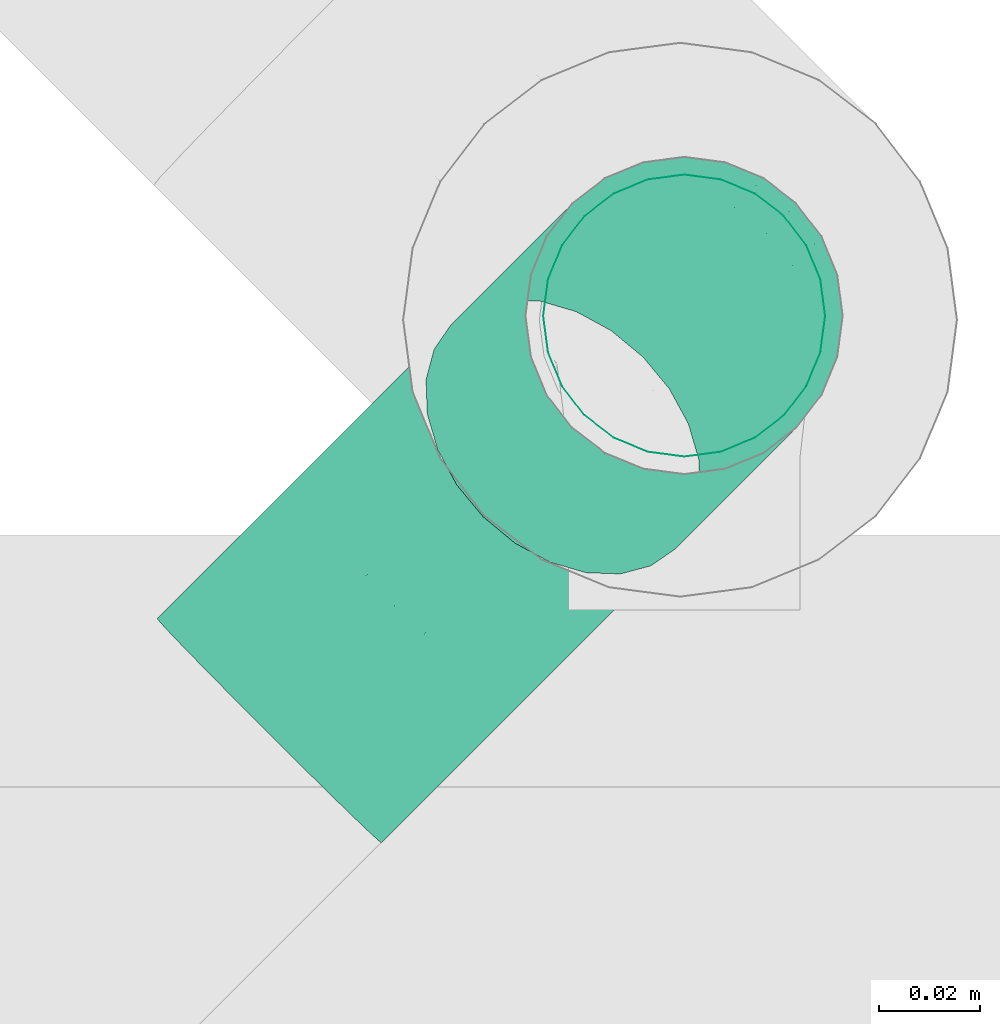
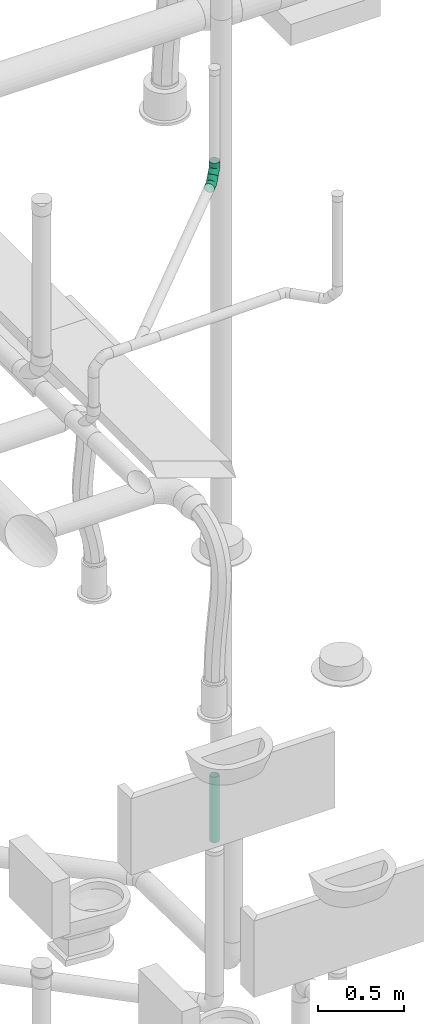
# One storey, part 139 of 374: 2 flow fittings, 1 flow segment.
"""IFC2X3 building model written with IfcOpenShell, lengths in metres."""

from ifc_helpers import new_model, si_unit, direction, origin, place, context, subcontext, project, spatial, open_shell, surface_model, source, transform, mapped, element, save


model = new_model("IFC2X3")

# Units and contexts
model_context = context("Model", 3, precision=1e-05, world=origin(), true_north=direction((-0.4480736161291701, 0.8939966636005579)))
body_context = subcontext(model_context, "Body", "Model", "MODEL_VIEW")
ifc_project = project(units=[si_unit("LENGTHUNIT", "METRE"), si_unit("AREAUNIT", "SQUARE_METRE"), si_unit("VOLUMEUNIT", "CUBIC_METRE"), si_unit("PLANEANGLEUNIT", "RADIAN"), si_unit("THERMODYNAMICTEMPERATUREUNIT", "KELVIN"), si_unit("MASSUNIT", "GRAM", prefix="KILO"), si_unit("TIMEUNIT", "SECOND")], contexts=[model_context])

# Site, building, storey
site_placement = place(None, origin())
site = spatial("IfcSite", under=ifc_project, at=site_placement, Name="Site 1", CompositionType="ELEMENT")
building_placement = place(site_placement, origin())
building = spatial("IfcBuilding", under=site, at=building_placement, Name="Undefined", CompositionType="ELEMENT")
storey_placement = place(building_placement, origin())
storey = spatial("IfcBuildingStorey", under=building, at=storey_placement, Name="Rez de chauss\x8ee", CompositionType="ELEMENT", Elevation=0.0)

# Flow segment
shared_shape_1 = source(origin(), body_context, "Body", "SurfaceModel", [
    surface_model("IfcFaceBasedSurfaceModel", [(0.0, 0.007309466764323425, 0.0), (0.0, 0.0, 0.0), (0.46305404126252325, 0.0, 0.0), (0.46305404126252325, 0.007309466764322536, 0.0), (0.0, -0.007060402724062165, -0.0018918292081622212), (0.46305404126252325, -0.0070604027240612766, -0.0018918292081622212), (0.0, -0.013390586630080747, -0.00554656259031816), (0.46305404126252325, -0.013390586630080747, -0.00554656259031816), (0.0, -0.018559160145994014, -0.010715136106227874), (0.46305404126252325, -0.018559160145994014, -0.010715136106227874), (0.0, -0.022213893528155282, -0.017045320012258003), (0.46305404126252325, -0.022213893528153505, -0.017045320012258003), (0.0, -0.02410572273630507, -0.02410572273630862), (0.46305404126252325, -0.02410572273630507, -0.024105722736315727), (0.0, -0.024105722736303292, -0.03141518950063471), (0.46305404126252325, -0.02410572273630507, -0.03141518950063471), (0.0, -0.022213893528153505, -0.03847559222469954), (0.46305404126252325, -0.022213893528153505, -0.038475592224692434), (0.0, -0.01855916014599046, -0.04480577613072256), (0.46305404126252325, -0.01855916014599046, -0.04480577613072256), (0.0, -0.01339058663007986, -0.04997434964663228), (0.46305404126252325, -0.013390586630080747, -0.04997434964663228), (0.0, -0.007060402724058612, -0.05362908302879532), (0.46305404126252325, -0.007060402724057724, -0.053629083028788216), (0.0, 2.664535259e-15, -0.05552091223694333), (0.46305404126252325, 0.0, -0.055520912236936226), (0.0, 0.007309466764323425, -0.05552091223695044), (0.46305404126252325, 0.007309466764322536, -0.055520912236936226), (0.0, 0.014369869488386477, -0.053629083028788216), (0.46305404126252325, 0.014369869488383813, -0.053629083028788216), (0.0, 0.02070005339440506, -0.04997434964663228), (0.46305404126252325, 0.020700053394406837, -0.04997434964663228), (0.0, 0.025868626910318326, -0.04480577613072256), (0.46305404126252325, 0.02586862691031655, -0.04480577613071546), (0.0, 0.029523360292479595, -0.038475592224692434), (0.46305404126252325, 0.029523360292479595, -0.038475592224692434), (0.0, 0.03141518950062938, -0.031415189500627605), (0.46305404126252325, 0.031415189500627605, -0.03141518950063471), (0.0, 0.031415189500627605, -0.024105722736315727), (0.46305404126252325, 0.031415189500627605, -0.024105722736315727), (0.0, 0.029523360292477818, -0.017045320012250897), (0.46305404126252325, 0.029523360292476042, -0.017045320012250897), (0.0, 0.025868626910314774, -0.010715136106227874), (0.46305404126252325, 0.025868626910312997, -0.010715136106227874), (0.0, 0.020700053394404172, -0.00554656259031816), (0.46305404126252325, 0.020700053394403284, -0.00554656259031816), (0.0, 0.014369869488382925, -0.0018918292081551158), (0.46305404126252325, 0.014369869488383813, -0.0018918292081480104)], [open_shell([[[0, 1, 2, 3]], [[1, 4, 5, 2]], [[4, 6, 7, 5]], [[6, 8, 9, 7]], [[8, 10, 11, 9]], [[10, 12, 13, 11]], [[12, 14, 15, 13]], [[14, 16, 17, 15]], [[16, 18, 19, 17]], [[18, 20, 21, 19]], [[20, 22, 23, 21]], [[22, 24, 25, 23]], [[24, 26, 27, 25]], [[26, 28, 29, 27]], [[28, 30, 31, 29]], [[30, 32, 33, 31]], [[32, 34, 35, 33]], [[34, 36, 37, 35]], [[36, 38, 39, 37]], [[38, 40, 41, 39]], [[40, 42, 43, 41]], [[42, 44, 45, 43]], [[44, 46, 47, 45]], [[46, 0, 3, 47]]])]),
])
flow_segment_placement = place(storey_placement, origin())
element("IfcFlowSegment", 1, at=flow_segment_placement, inside=storey, Name="PE-HD tuyau", ObjectType="PE-HD tuyau", context=body_context, shape_type="MappedRepresentation", body=[
    mapped(shared_shape_1, transform((58.547961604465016, 13.418958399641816, 0.4410518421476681), x_axis=(0.0, 0.0, -1.0), y_axis=(-0.13052619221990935, -0.9914448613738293, 0.0), z_axis=(-0.9914448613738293, 0.13052619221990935, 0.0))),
])

# Flow fittings
shared_shape_2 = source(origin(), body_context, "Body", "SurfaceModel", [
    surface_model("IfcFaceBasedSurfaceModel", [(0.03539999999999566, 1.776356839e-15, 0.0), (0.03539999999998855, 0.008223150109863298, 0.0), (0.0, 0.008223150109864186, -7.105427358e-15), (0.0, 0.0, 0.0), (0.03539999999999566, 0.016166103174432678, -0.0021283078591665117), (-7.105427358e-15, 0.016166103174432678, -0.0021283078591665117), (0.03539999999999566, 0.023287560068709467, -0.00623988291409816), (-7.105427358e-15, 0.023287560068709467, -0.00623988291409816), (0.03540000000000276, 0.02910220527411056, -0.012054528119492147), (-7.105427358e-15, 0.02910220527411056, -0.012054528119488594), (0.03539999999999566, 0.033213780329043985, -0.019175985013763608), (-7.105427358e-15, 0.03321378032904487, -0.019175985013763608), (0.03539999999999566, 0.035342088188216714, -0.027118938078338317), (-7.105427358e-15, 0.0353420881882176, -0.027118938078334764), (0.03540000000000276, 0.03534208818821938, -0.035342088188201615), (-7.105427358e-15, 0.03534208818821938, -0.03534208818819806), (0.03539999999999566, 0.03321378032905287, -0.043285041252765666), (-7.105427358e-15, 0.03321378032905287, -0.043285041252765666), (0.03539999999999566, 0.02910220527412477, -0.05040649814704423), (0.0, 0.029102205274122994, -0.05040649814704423), (0.03539999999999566, 0.023287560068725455, -0.05622114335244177), (-7.105427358e-15, 0.02328756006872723, -0.056221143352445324), (0.03539999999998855, 0.016166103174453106, -0.06033271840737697), (-7.105427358e-15, 0.016166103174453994, -0.06033271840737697), (0.03539999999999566, 0.00822315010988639, -0.06246102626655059), (0.0, 0.00822315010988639, -0.06246102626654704), (0.03539999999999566, 2.3092638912e-14, -0.06246102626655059), (0.0, 2.2204460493e-14, -0.06246102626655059), (0.03539999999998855, -0.007942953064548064, -0.06033271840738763), (-1.4210854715e-14, -0.007942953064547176, -0.06033271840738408), (0.03539999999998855, -0.015064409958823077, -0.05622114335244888), (-7.105427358e-15, -0.015064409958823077, -0.05622114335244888), (0.03539999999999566, -0.02087905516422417, -0.05040649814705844), (-7.105427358e-15, -0.02087905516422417, -0.050406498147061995), (0.03539999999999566, -0.024990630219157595, -0.043285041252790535), (-7.105427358e-15, -0.024990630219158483, -0.04328504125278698), (0.03539999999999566, -0.02711893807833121, -0.035342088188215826), (-1.4210854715e-14, -0.02711893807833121, -0.035342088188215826), (0.03539999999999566, -0.027118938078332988, -0.02711893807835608), (-7.105427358e-15, -0.027118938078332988, -0.027118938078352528), (0.03539999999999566, -0.024990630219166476, -0.01917598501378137), (0.0, -0.024990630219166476, -0.01917598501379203), (0.03539999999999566, -0.02087905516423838, -0.012054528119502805), (0.0, -0.020879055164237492, -0.012054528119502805), (0.035399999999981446, -0.015064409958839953, -0.006239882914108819), (-7.105427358e-15, -0.015064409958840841, -0.006239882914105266), (0.03539999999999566, -0.007942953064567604, -0.00212830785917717), (0.0, -0.007942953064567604, -0.002128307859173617), (-0.016006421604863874, 0.03327300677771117, -0.03561448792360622), (-0.01628162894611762, 0.03323743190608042, -0.027396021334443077), (-0.03094264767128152, 0.027204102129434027, -0.036413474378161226), (-0.031474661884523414, 0.027064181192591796, -0.028208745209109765), (-0.04381003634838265, 0.017541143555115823, -0.03768562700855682), (-0.044563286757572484, 0.01723508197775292, -0.029502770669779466), (-0.015199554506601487, 0.031248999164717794, -0.04354370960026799), (-0.029382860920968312, 0.02548602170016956, -0.04430241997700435), (-0.0416016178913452, 0.01631016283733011, -0.045510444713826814), (-0.013916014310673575, 0.02730334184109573, -0.050643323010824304), (-0.026901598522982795, 0.022027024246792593, -0.05133796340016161), (-0.038088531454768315, 0.013626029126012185, -0.05244397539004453), (-0.012243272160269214, 0.02170492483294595, -0.056429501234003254), (-0.02366795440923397, 0.01706283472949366, -0.057040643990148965), (-0.03351018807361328, 0.009671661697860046, -0.05801371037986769), (-0.010295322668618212, 0.014835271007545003, -0.060507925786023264), (-0.01990229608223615, 0.010931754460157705, -0.06102183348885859), (-0.02817859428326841, 0.004716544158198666, -0.061840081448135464), (-0.008204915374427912, 0.007162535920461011, -0.06260065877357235), (-0.015861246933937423, 0.004051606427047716, -0.06301022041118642), (-0.022457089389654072, -0.0009016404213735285, -0.06366232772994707), (-0.006114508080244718, -0.0007903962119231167, -0.06256508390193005), (-0.011820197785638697, -0.0031087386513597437, -0.06287029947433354), (-0.01673558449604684, -0.00680002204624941, -0.06335626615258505), (-0.004166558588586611, -0.008481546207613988, -0.0604036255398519), (-0.008054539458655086, -0.010061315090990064, -0.06061160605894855), (-0.011403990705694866, -0.012576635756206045, -0.06094275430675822), (-0.0024938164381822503, -0.015386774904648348, -0.05626358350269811), (-0.004820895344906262, -0.016332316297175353, -0.05638806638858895), (-0.0068256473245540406, -0.017837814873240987, -0.056586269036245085), (-0.0012102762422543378, -0.021035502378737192, -0.05042709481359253), (-0.002339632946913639, -0.0214943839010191, -0.05048750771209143), (-0.0033125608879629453, -0.022225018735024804, -0.050583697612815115), (-0.00040340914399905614, -0.0250427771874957, -0.043291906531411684), (-0.0007798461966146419, -0.025195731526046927, -0.04331204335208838), (-0.001104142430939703, -0.025439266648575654, -0.04334410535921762), (-0.00012820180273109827, -0.02713551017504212, -0.03534426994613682), (-0.00024783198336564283, -0.027184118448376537, -0.035350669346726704), (-0.00035089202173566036, -0.02726151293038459, -0.03536085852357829), (-0.00040340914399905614, -0.027171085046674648, -0.027125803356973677), (-0.0007798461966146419, -0.027324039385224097, -0.02714594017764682), (-0.001104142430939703, -0.0275675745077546, -0.02717800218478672), (-0.0012102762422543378, -0.0251470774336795, -0.01919658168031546), (-0.0023396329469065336, -0.025605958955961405, -0.019256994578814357), (-0.00331256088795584, -0.02633659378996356, -0.019353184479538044), (-0.0024938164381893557, -0.02120142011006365, -0.01209696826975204), (-0.004820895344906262, -0.022146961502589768, -0.012221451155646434), (-0.0068256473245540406, -0.023652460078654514, -0.012419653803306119), (-0.004166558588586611, -0.015603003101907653, -0.006310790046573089), (-0.00805453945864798, -0.01718277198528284, -0.006518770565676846), (-0.011403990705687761, -0.019698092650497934, -0.0068499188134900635), (-0.006114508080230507, -0.008733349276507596, -0.0022323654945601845), (-0.011820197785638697, -0.011051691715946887, -0.0025375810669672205), (-0.016735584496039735, -0.014742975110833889, -0.0030235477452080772), (-0.008204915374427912, -0.001060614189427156, -0.00013963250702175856), (-0.01586124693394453, -0.004171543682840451, -0.0005491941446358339), (-0.022457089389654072, -0.009124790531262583, -0.0012013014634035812), (-0.010295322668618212, 0.006892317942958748, -0.00017520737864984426), (-0.019902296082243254, 0.0029888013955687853, -0.0006891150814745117), (-0.02817859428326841, -0.0032264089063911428, -0.0015073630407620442), (-0.012243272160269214, 0.014583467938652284, -0.0023366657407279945), (-0.023667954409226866, 0.009941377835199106, -0.0029478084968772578), (-0.033510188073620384, 0.002550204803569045, -0.003920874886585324), (-0.013916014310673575, 0.02148869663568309, -0.006476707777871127), (-0.026901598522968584, 0.016212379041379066, -0.007171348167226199), (-0.038088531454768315, 0.007811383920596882, -0.00827736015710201), (-0.015199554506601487, 0.0271374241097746, -0.01231319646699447), (-0.029382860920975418, 0.02137444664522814, -0.013071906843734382), (-0.041601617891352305, 0.012198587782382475, -0.014279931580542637), (-0.01600642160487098, 0.031144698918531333, -0.019448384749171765), (-0.030942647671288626, 0.02507579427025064, -0.02024737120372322), (-0.04381003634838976, 0.015412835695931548, -0.021519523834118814), (-0.06902863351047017, -0.007089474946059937, -0.04092830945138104), (-0.06978188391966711, -0.007395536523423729, -0.03274545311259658), (-0.06682021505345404, -0.00832045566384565, -0.04875312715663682), (-0.06330712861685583, -0.011004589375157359, -0.055686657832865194), (-0.05872878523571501, -0.014958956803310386, -0.06125639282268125), (-0.053397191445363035, -0.019914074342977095, -0.06508276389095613), (-0.04767568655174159, -0.025532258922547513, -0.06690501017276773), (-0.04195418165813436, -0.031430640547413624, -0.06659894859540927), (-0.036622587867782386, -0.037207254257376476, -0.06418543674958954), (-0.032044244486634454, -0.042468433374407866, -0.05982895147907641), (-0.028531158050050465, -0.04685563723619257, -0.05382638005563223), (-0.026322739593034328, -0.05006988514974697, -0.04658678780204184), (-0.02556948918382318, -0.05189213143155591, -0.0386035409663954), (-0.026322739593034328, -0.05219819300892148, -0.03042068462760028), (-0.028531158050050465, -0.050967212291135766, -0.02259586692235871), (-0.03204424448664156, -0.04828307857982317, -0.015662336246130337), (-0.03662258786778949, -0.04432871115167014, -0.01009260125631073), (-0.04195418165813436, -0.03937359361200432, -0.006266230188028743), (-0.04767568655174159, -0.0337554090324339, -0.004443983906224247), (-0.053397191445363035, -0.02785702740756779, -0.004750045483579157), (-0.05872878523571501, -0.02208041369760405, -0.007163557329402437), (-0.06330712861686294, -0.016819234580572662, -0.01152004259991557), (-0.06682021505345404, -0.012432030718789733, -0.017522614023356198), (-0.06902863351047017, -0.00921778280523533, -0.024762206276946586)], [open_shell([[[0, 1, 2, 3]], [[1, 4, 5, 2]], [[4, 6, 7, 5]], [[6, 8, 9, 7]], [[8, 10, 11, 9]], [[10, 12, 13, 11]], [[12, 14, 15, 13]], [[14, 16, 17, 15]], [[16, 18, 19, 17]], [[18, 20, 21, 19]], [[20, 22, 23, 21]], [[22, 24, 25, 23]], [[24, 26, 27, 25]], [[26, 28, 29, 27]], [[28, 30, 31, 29]], [[30, 32, 33, 31]], [[32, 34, 35, 33]], [[34, 36, 37, 35]], [[36, 38, 39, 37]], [[38, 40, 41, 39]], [[40, 42, 43, 41]], [[42, 44, 45, 43]], [[44, 46, 47, 45]], [[46, 0, 3, 47]], [[13, 15, 48, 49]], [[49, 48, 50, 51]], [[51, 50, 52, 53]], [[15, 17, 54, 48]], [[48, 54, 55, 50]], [[50, 55, 56, 52]], [[17, 19, 57, 54]], [[54, 57, 58, 55]], [[55, 58, 59, 56]], [[19, 21, 60, 57]], [[57, 60, 61, 58]], [[58, 61, 62, 59]], [[21, 23, 63, 60]], [[60, 63, 64, 61]], [[61, 64, 65, 62]], [[23, 25, 66, 63]], [[63, 66, 67, 64]], [[64, 67, 68, 65]], [[25, 27, 69, 66]], [[66, 69, 70, 67]], [[67, 70, 71, 68]], [[27, 29, 72, 69]], [[69, 72, 73, 70]], [[70, 73, 74, 71]], [[29, 31, 75, 72]], [[72, 75, 76, 73]], [[73, 76, 77, 74]], [[31, 33, 78, 75]], [[75, 78, 79, 76]], [[76, 79, 80, 77]], [[33, 35, 81, 78]], [[78, 81, 82, 79]], [[79, 82, 83, 80]], [[35, 37, 84, 81]], [[81, 84, 85, 82]], [[82, 85, 86, 83]], [[37, 39, 87, 84]], [[84, 87, 88, 85]], [[85, 88, 89, 86]], [[39, 41, 90, 87]], [[87, 90, 91, 88]], [[88, 91, 92, 89]], [[41, 43, 93, 90]], [[90, 93, 94, 91]], [[91, 94, 95, 92]], [[43, 45, 96, 93]], [[93, 96, 97, 94]], [[94, 97, 98, 95]], [[45, 47, 99, 96]], [[96, 99, 100, 97]], [[97, 100, 101, 98]], [[47, 3, 102, 99]], [[99, 102, 103, 100]], [[100, 103, 104, 101]], [[3, 2, 105, 102]], [[102, 105, 106, 103]], [[103, 106, 107, 104]], [[2, 5, 108, 105]], [[105, 108, 109, 106]], [[106, 109, 110, 107]], [[5, 7, 111, 108]], [[108, 111, 112, 109]], [[109, 112, 113, 110]], [[7, 9, 114, 111]], [[111, 114, 115, 112]], [[112, 115, 116, 113]], [[9, 11, 117, 114]], [[114, 117, 118, 115]], [[115, 118, 119, 116]], [[11, 13, 49, 117]], [[117, 49, 51, 118]], [[118, 51, 53, 119]], [[53, 52, 120, 121]], [[52, 56, 122, 120]], [[56, 59, 123, 122]], [[59, 62, 124, 123]], [[62, 65, 125, 124]], [[65, 68, 126, 125]], [[68, 71, 127, 126]], [[71, 74, 128, 127]], [[74, 77, 129, 128]], [[77, 80, 130, 129]], [[80, 83, 131, 130]], [[83, 86, 132, 131]], [[86, 89, 133, 132]], [[89, 92, 134, 133]], [[92, 95, 135, 134]], [[95, 98, 136, 135]], [[98, 101, 137, 136]], [[101, 104, 138, 137]], [[104, 107, 139, 138]], [[107, 110, 140, 139]], [[110, 113, 141, 140]], [[113, 116, 142, 141]], [[116, 119, 143, 142]], [[119, 53, 121, 143]]])]),
])
flow_fitting_1_placement = place(storey_placement, origin())
element("IfcFlowFitting", 2, at=flow_fitting_1_placement, inside=storey, Name="PE-HD coude 45°", ObjectType="PE-HD coude 45°", context=body_context, shape_type="MappedRepresentation", body=[
    mapped(shared_shape_2, transform((58.53987688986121, 13.332033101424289, 4.6646106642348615), x_axis=(-0.7070272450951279, -0.7070272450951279, -0.014998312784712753), y_axis=(-0.08178127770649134, 0.10281063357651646, -0.9913333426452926), z_axis=(0.7024416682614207, -0.6996731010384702, -0.13051151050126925))),
])
shared_shape_3 = source(origin(), body_context, "Body", "SurfaceModel", [
    surface_model("IfcFaceBasedSurfaceModel", [(0.0, 0.008223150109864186, -7.105427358e-15), (0.0, 0.0, 0.0), (0.03539999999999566, 1.776356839e-15, 0.0), (0.03539999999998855, 0.008223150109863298, 0.0), (0.0, -0.007942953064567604, -0.002128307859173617), (0.03539999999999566, -0.007942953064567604, -0.00212830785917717), (-7.105427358e-15, -0.015064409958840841, -0.006239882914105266), (0.035399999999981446, -0.015064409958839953, -0.006239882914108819), (0.0, -0.020879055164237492, -0.012054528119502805), (0.03539999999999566, -0.02087905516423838, -0.012054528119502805), (0.0, -0.024990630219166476, -0.01917598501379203), (0.03539999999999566, -0.024990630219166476, -0.01917598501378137), (-7.105427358e-15, -0.027118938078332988, -0.027118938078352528), (0.03539999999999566, -0.027118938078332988, -0.02711893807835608), (-1.4210854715e-14, -0.02711893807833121, -0.035342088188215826), (0.03539999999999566, -0.02711893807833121, -0.035342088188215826), (-7.105427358e-15, -0.024990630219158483, -0.04328504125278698), (0.03539999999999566, -0.024990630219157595, -0.043285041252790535), (-7.105427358e-15, -0.02087905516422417, -0.050406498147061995), (0.03539999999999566, -0.02087905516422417, -0.05040649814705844), (-7.105427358e-15, -0.015064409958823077, -0.05622114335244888), (0.03539999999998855, -0.015064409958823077, -0.05622114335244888), (-1.4210854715e-14, -0.007942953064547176, -0.06033271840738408), (0.03539999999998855, -0.007942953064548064, -0.06033271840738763), (0.0, 2.2204460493e-14, -0.06246102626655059), (0.03539999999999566, 2.3092638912e-14, -0.06246102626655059), (0.0, 0.00822315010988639, -0.06246102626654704), (0.03539999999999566, 0.00822315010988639, -0.06246102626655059), (-7.105427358e-15, 0.016166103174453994, -0.06033271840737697), (0.03539999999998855, 0.016166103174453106, -0.06033271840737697), (-7.105427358e-15, 0.02328756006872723, -0.056221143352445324), (0.03539999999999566, 0.023287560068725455, -0.05622114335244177), (0.0, 0.029102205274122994, -0.05040649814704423), (0.03539999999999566, 0.02910220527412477, -0.05040649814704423), (-7.105427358e-15, 0.03321378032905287, -0.043285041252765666), (0.03539999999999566, 0.03321378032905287, -0.043285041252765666), (-7.105427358e-15, 0.03534208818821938, -0.03534208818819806), (0.03540000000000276, 0.03534208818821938, -0.035342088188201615), (-7.105427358e-15, 0.0353420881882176, -0.027118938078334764), (0.03539999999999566, 0.035342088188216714, -0.027118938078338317), (-7.105427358e-15, 0.03321378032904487, -0.019175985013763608), (0.03539999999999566, 0.033213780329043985, -0.019175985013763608), (-7.105427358e-15, 0.02910220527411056, -0.012054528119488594), (0.03540000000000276, 0.02910220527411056, -0.012054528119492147), (-7.105427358e-15, 0.023287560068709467, -0.00623988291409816), (0.03539999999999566, 0.023287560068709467, -0.00623988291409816), (-7.105427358e-15, 0.016166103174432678, -0.0021283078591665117), (0.03539999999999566, 0.016166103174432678, -0.0021283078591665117), (0.051406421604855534, -0.02504985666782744, -0.035614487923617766), (0.05168162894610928, -0.025014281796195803, -0.027396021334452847), (0.06634264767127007, -0.01898095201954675, -0.03641347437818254), (0.06687466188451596, -0.01884103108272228, -0.028208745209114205), (0.07921003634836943, -0.009317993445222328, -0.037685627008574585), (0.0799632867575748, -0.009011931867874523, -0.02950277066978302), (0.05059955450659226, -0.023025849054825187, -0.04354370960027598), (0.06478286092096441, -0.01726287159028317, -0.044302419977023), (0.07700161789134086, -0.008087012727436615, -0.04551044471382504), (0.04931601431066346, -0.019080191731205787, -0.05064332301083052), (0.06230159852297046, -0.013803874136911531, -0.05133796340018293), (0.07348853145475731, -0.0054028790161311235, -0.05244397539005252), (0.04764327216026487, -0.013481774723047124, -0.0564295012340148), (0.05906795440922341, -0.008839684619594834, -0.057040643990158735), (0.06891018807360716, -0.00144851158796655, -0.05801371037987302), (0.04569532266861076, -0.006612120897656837, -0.060507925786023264), (0.05530229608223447, -0.0027086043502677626, -0.061021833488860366), (0.06357859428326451, 0.003506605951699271, -0.061840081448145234), (0.043604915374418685, 0.0010606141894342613, -0.06260065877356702), (0.051261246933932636, 0.004171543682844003, -0.06301022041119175), (0.05785708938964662, 0.00912479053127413, -0.06366232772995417), (0.04151450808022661, 0.009013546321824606, -0.06256508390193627), (0.04722019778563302, 0.011331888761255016, -0.06287029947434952), (0.05213558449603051, 0.015023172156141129, -0.06335626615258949), (0.0395665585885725, 0.016704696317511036, -0.0604036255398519), (0.043454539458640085, 0.01828446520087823, -0.060611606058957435), (0.046803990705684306, 0.020799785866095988, -0.0609427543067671), (0.03789381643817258, 0.023609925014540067, -0.05626358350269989), (0.04022089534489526, 0.024555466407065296, -0.05638806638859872), (0.04222564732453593, 0.026060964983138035, -0.05658626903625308), (0.036610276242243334, 0.02925865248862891, -0.0504270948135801), (0.03773963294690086, 0.029717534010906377, -0.05048750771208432), (0.038712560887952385, 0.03044816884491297, -0.05058369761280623), (0.0358034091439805, 0.03326592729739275, -0.04329190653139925), (0.036179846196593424, 0.033418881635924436, -0.04331204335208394), (0.03650414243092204, 0.03366241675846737, -0.043344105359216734), (0.03552820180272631, 0.03535866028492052, -0.03534426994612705), (0.03564783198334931, 0.035407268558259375, -0.03535066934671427), (0.035750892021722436, 0.03548466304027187, -0.03536085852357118), (0.0358034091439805, 0.03539423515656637, -0.02712580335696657), (0.036179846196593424, 0.03554718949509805, -0.027145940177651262), (0.03650414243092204, 0.03579072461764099, -0.027178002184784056), (0.036610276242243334, 0.03337022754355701, -0.019196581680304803), (0.03773963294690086, 0.03382910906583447, -0.019256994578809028), (0.038712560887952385, 0.03455974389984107, -0.019353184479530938), (0.03789381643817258, 0.029424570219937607, -0.012096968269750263), (0.04022089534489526, 0.030370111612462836, -0.012221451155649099), (0.04222564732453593, 0.031875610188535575, -0.012419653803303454), (0.0395665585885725, 0.02382615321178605, -0.006310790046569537), (0.043454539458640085, 0.025405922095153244, -0.006518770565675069), (0.046803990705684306, 0.027921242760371, -0.006849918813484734), (0.04151450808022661, 0.016956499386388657, -0.0022323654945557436), (0.04722019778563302, 0.019274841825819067, -0.002537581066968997), (0.05213558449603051, 0.02296612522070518, -0.0030235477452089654), (0.04360491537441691, 0.009283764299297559, -0.00013963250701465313), (0.05126124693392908, 0.012394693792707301, -0.0005491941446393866), (0.05785708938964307, 0.017347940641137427, -0.0012013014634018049), (0.04569532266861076, 0.0013308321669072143, -0.00017520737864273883), (0.05530229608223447, 0.0052343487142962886, -0.0006891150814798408), (0.06357859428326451, 0.011449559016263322, -0.0015073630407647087), (0.04764327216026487, -0.006360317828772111, -0.0023366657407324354), (0.05906795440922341, -0.0017182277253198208, -0.0029478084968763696), (0.06891018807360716, 0.005672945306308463, -0.003920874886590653), (0.04931601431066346, -0.013265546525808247, -0.006476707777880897), (0.06230159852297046, -0.007989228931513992, -0.007171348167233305), (0.07348853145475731, 0.00041176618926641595, -0.008277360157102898), (0.05059955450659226, -0.01891427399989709, -0.012313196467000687), (0.06478286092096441, -0.013151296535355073, -0.013071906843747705), (0.07700161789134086, -0.003975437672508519, -0.014279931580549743), (0.051406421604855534, -0.022921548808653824, -0.019448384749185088), (0.06634264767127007, -0.01685264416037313, -0.020247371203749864), (0.07921003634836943, -0.007189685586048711, -0.021519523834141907), (0.10442863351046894, 0.015312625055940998, -0.040928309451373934), (0.10518188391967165, 0.015618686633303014, -0.03274545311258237), (0.10222021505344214, 0.016543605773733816, -0.04875312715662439), (0.09870712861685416, 0.019227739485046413, -0.05568665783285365), (0.09412878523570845, 0.023182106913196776, -0.06125639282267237), (0.08879719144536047, 0.028137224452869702, -0.0650827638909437), (0.08307568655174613, 0.033755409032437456, -0.06690501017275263), (0.07735418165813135, 0.039653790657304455, -0.06659894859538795), (0.07202258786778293, 0.04543040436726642, -0.06418543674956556), (0.06744424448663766, 0.05069158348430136, -0.05982895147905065), (0.06393115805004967, 0.0550787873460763, -0.053826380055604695), (0.06172273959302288, 0.0582930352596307, -0.04658678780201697), (0.06096948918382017, 0.06011528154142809, -0.03860354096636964), (0.06172273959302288, 0.060421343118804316, -0.030420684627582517), (0.06393115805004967, 0.05919036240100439, -0.0225958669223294), (0.06744424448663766, 0.0565062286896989, -0.015662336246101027), (0.07202258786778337, 0.05255186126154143, -0.010092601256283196), (0.07735418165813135, 0.047596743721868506, -0.006266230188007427), (0.08307568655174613, 0.04197855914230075, -0.004443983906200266), (0.08879719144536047, 0.036080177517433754, -0.00475004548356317), (0.09412878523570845, 0.03030356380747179, -0.007163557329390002), (0.09870712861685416, 0.025042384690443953, -0.011520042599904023), (0.10222021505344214, 0.020655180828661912, -0.017522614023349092), (0.10442863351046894, 0.017440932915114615, -0.02476220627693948)], [open_shell([[[0, 1, 2, 3]], [[1, 4, 5, 2]], [[4, 6, 7, 5]], [[6, 8, 9, 7]], [[8, 10, 11, 9]], [[10, 12, 13, 11]], [[12, 14, 15, 13]], [[14, 16, 17, 15]], [[16, 18, 19, 17]], [[18, 20, 21, 19]], [[20, 22, 23, 21]], [[22, 24, 25, 23]], [[24, 26, 27, 25]], [[26, 28, 29, 27]], [[28, 30, 31, 29]], [[30, 32, 33, 31]], [[32, 34, 35, 33]], [[34, 36, 37, 35]], [[36, 38, 39, 37]], [[38, 40, 41, 39]], [[40, 42, 43, 41]], [[42, 44, 45, 43]], [[44, 46, 47, 45]], [[46, 0, 3, 47]], [[13, 15, 48, 49]], [[49, 48, 50, 51]], [[51, 50, 52, 53]], [[15, 17, 54, 48]], [[48, 54, 55, 50]], [[50, 55, 56, 52]], [[17, 19, 57, 54]], [[54, 57, 58, 55]], [[55, 58, 59, 56]], [[19, 21, 60, 57]], [[57, 60, 61, 58]], [[58, 61, 62, 59]], [[21, 23, 63, 60]], [[60, 63, 64, 61]], [[61, 64, 65, 62]], [[23, 25, 66, 63]], [[63, 66, 67, 64]], [[64, 67, 68, 65]], [[25, 27, 69, 66]], [[66, 69, 70, 67]], [[67, 70, 71, 68]], [[27, 29, 72, 69]], [[69, 72, 73, 70]], [[70, 73, 74, 71]], [[29, 31, 75, 72]], [[72, 75, 76, 73]], [[73, 76, 77, 74]], [[31, 33, 78, 75]], [[75, 78, 79, 76]], [[76, 79, 80, 77]], [[33, 35, 81, 78]], [[78, 81, 82, 79]], [[79, 82, 83, 80]], [[35, 37, 84, 81]], [[81, 84, 85, 82]], [[82, 85, 86, 83]], [[37, 39, 87, 84]], [[84, 87, 88, 85]], [[85, 88, 89, 86]], [[39, 41, 90, 87]], [[87, 90, 91, 88]], [[88, 91, 92, 89]], [[41, 43, 93, 90]], [[90, 93, 94, 91]], [[91, 94, 95, 92]], [[43, 45, 96, 93]], [[93, 96, 97, 94]], [[94, 97, 98, 95]], [[45, 47, 99, 96]], [[96, 99, 100, 97]], [[97, 100, 101, 98]], [[47, 3, 102, 99]], [[99, 102, 103, 100]], [[100, 103, 104, 101]], [[3, 2, 105, 102]], [[102, 105, 106, 103]], [[103, 106, 107, 104]], [[2, 5, 108, 105]], [[105, 108, 109, 106]], [[106, 109, 110, 107]], [[5, 7, 111, 108]], [[108, 111, 112, 109]], [[109, 112, 113, 110]], [[7, 9, 114, 111]], [[111, 114, 115, 112]], [[112, 115, 116, 113]], [[9, 11, 117, 114]], [[114, 117, 118, 115]], [[115, 118, 119, 116]], [[11, 13, 49, 117]], [[117, 49, 51, 118]], [[118, 51, 53, 119]], [[53, 52, 120, 121]], [[52, 56, 122, 120]], [[56, 59, 123, 122]], [[59, 62, 124, 123]], [[62, 65, 125, 124]], [[65, 68, 126, 125]], [[68, 71, 127, 126]], [[71, 74, 128, 127]], [[74, 77, 129, 128]], [[77, 80, 130, 129]], [[80, 83, 131, 130]], [[83, 86, 132, 131]], [[86, 89, 133, 132]], [[89, 92, 134, 133]], [[92, 95, 135, 134]], [[95, 98, 136, 135]], [[98, 101, 137, 136]], [[101, 104, 138, 137]], [[104, 107, 139, 138]], [[107, 110, 140, 139]], [[110, 113, 141, 140]], [[113, 116, 142, 141]], [[116, 119, 143, 142]], [[119, 53, 121, 143]]])]),
])
flow_fitting_2_placement = place(storey_placement, origin())
element("IfcFlowFitting", 3, at=flow_fitting_2_placement, inside=storey, Name="PE-HD coude 45°", ObjectType="PE-HD coude 45°", context=body_context, shape_type="MappedRepresentation", body=[
    mapped(shared_shape_3, transform((58.576554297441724, 13.37022843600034, 4.693636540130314), x_axis=(0.49623625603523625, 0.49623625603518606, 0.712389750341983), y_axis=(-0.4071301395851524, -0.5917220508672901, 0.6957801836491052), z_axis=(0.766808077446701, -0.6353066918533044, -0.09160119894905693))),
])

save(model, "model.ifc")
